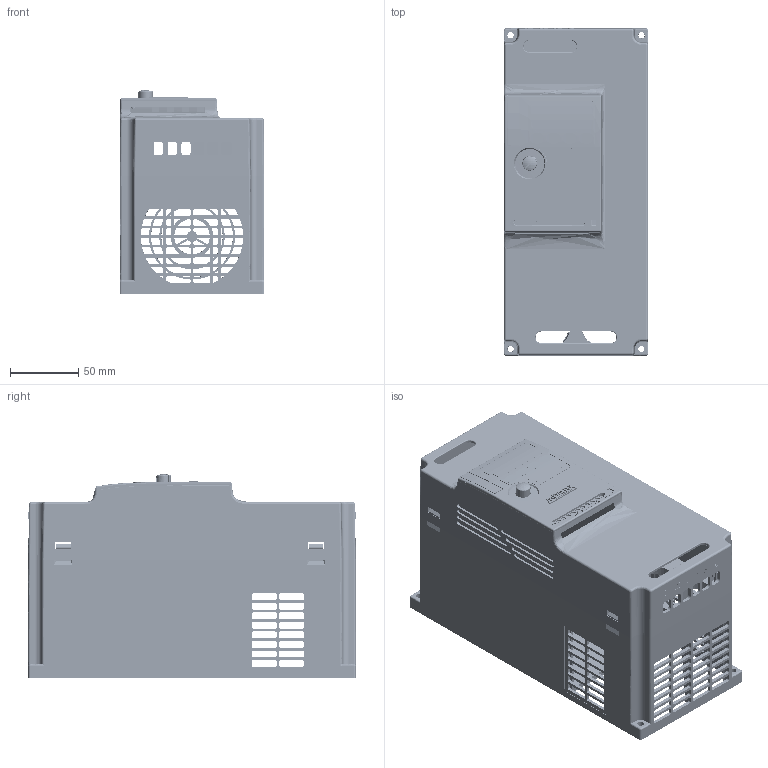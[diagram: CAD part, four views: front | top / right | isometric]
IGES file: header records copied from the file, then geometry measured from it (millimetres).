
Start section: SolidWorks IGES file using analytic representation for surfaces
Global section: file name: D:\X - Arquivos\PROEX\Empresas\P11 - METALTEX\Arquivo - Recebi por e-mail\3\3.1\IF10\IGES\7_5-11kw.IGS; native system: SolidWorks 2012; preprocessor: SolidWorks 2012; author: Usuario; date: 190524.101335; units: millimetre
Bounding box: 106.02 x 240.02 x 149.36 mm (x, y, z)
Surface area: 334474.8 mm2 (no closed solid volume)
Topology: 0 solids, 0 shells, 4319 faces, 36131 edges, 36120 vertices
Faces by surface type: bspline 2764, revolution 1555
